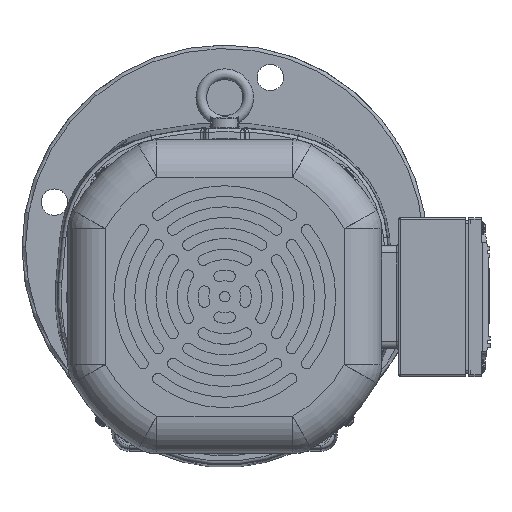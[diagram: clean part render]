
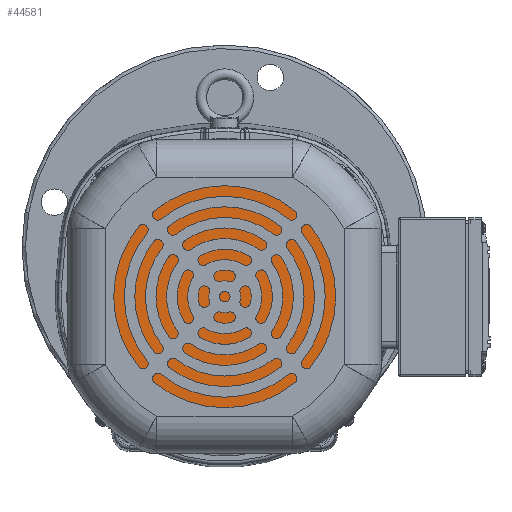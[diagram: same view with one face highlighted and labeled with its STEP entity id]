
A CAD part, top view. The second image highlights one B-rep face of the part: STEP entity #44581.
In plain terms, the highlighted planar face has unit normal (0, 0, 1).
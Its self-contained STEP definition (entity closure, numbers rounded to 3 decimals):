
#627=PLANE('',#47721);
#7584=FACE_OUTER_BOUND('',#10334,.T.);
#10334=EDGE_LOOP('',(#29298));
#13297=CIRCLE('',#47719,78.);
#17641=VERTEX_POINT('',#67330);
#21999=EDGE_CURVE('',#17641,#17641,#13297,.T.);
#29298=ORIENTED_EDGE('',*,*,#21999,.F.);
#44581=ADVANCED_FACE('',(#7584),#627,.F.);
#47719=AXIS2_PLACEMENT_3D('',#67331,#53563,#53564);
#47721=AXIS2_PLACEMENT_3D('',#67335,#53568,#53569);
#53563=DIRECTION('center_axis',(0.,0.,
-1.));
#53564=DIRECTION('ref_axis',(0.707,-0.707,0.));
#53568=DIRECTION('center_axis',(0.,0.,
-1.));
#53569=DIRECTION('ref_axis',(0.707,-0.707,0.));
#67330=CARTESIAN_POINT('',(-23.288,36.165,358.2));
#67331=CARTESIAN_POINT('Origin',(31.866,-18.989,358.2));
#67335=CARTESIAN_POINT('Origin',(31.866,-18.989,358.2));
